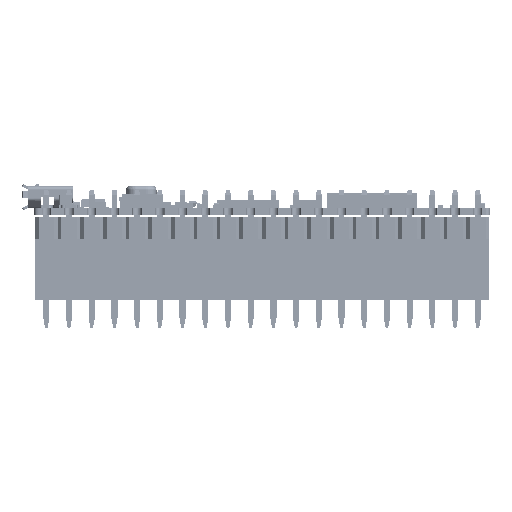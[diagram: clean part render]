
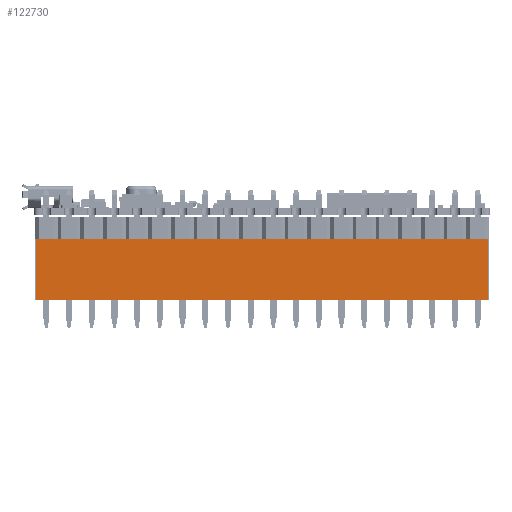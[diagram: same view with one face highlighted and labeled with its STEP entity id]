
A CAD part, left-side view. The second image highlights one B-rep face of the part: STEP entity #122730.
In plain terms, the highlighted planar face has unit normal (-1, 0, 0) as drawn and (0, -1, 0) by its records, which use the part's own axes.
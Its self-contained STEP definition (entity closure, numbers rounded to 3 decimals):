
#7666=PLANE('',#135371);
#17571=FACE_OUTER_BOUND('',#26667,.T.);
#26667=EDGE_LOOP('',(#112750,#112751,#112752,#112753));
#37239=LINE('',#217283,#48147);
#37330=LINE('',#217465,#48238);
#37334=LINE('',#217473,#48242);
#37335=LINE('',#217474,#48243);
#48147=VECTOR('',#168688,6.731);
#48238=VECTOR('',#168803,25.146);
#48242=VECTOR('',#168809,25.146);
#48243=VECTOR('',#168810,6.731);
#63838=VERTEX_POINT('',#217279);
#63840=VERTEX_POINT('',#217282);
#63919=VERTEX_POINT('',#217464);
#63922=VERTEX_POINT('',#217472);
#80164=EDGE_CURVE('',#63838,#63840,#37239,.T.);
#80255=EDGE_CURVE('',#63919,#63840,#37330,.T.);
#80259=EDGE_CURVE('',#63922,#63838,#37334,.T.);
#80260=EDGE_CURVE('',#63922,#63919,#37335,.T.);
#112750=ORIENTED_EDGE('',*,*,#80259,.F.);
#112751=ORIENTED_EDGE('',*,*,#80260,.T.);
#112752=ORIENTED_EDGE('',*,*,#80255,.T.);
#112753=ORIENTED_EDGE('',*,*,#80164,.F.);
#122730=ADVANCED_FACE('',(#17571),#7666,.T.);
#135371=AXIS2_PLACEMENT_3D('',#217471,#168807,#168808);
#168688=DIRECTION('',(0.,0.,-1.));
#168803=DIRECTION('',(1.,0.,0.));
#168807=DIRECTION('center_axis',(0.,-1.,0.));
#168808=DIRECTION('ref_axis',(1.,0.,0.));
#168809=DIRECTION('',(1.,0.,0.));
#168810=DIRECTION('',(0.,0.,-1.));
#217279=CARTESIAN_POINT('',(43.053,-27.778,-2.5));
#217282=CARTESIAN_POINT('',(43.053,-27.778,-9.231));
#217283=CARTESIAN_POINT('',(43.053,-27.778,-2.5));
#217464=CARTESIAN_POINT('',(-7.493,-27.778,-9.231));
#217465=CARTESIAN_POINT('',(-7.493,-27.778,-9.231));
#217471=CARTESIAN_POINT('Origin',(15.367,-27.778,-2.5));
#217472=CARTESIAN_POINT('',(-7.493,-27.778,-2.5));
#217473=CARTESIAN_POINT('',(-7.493,-27.778,-2.5));
#217474=CARTESIAN_POINT('',(-7.493,-27.778,-2.5));
